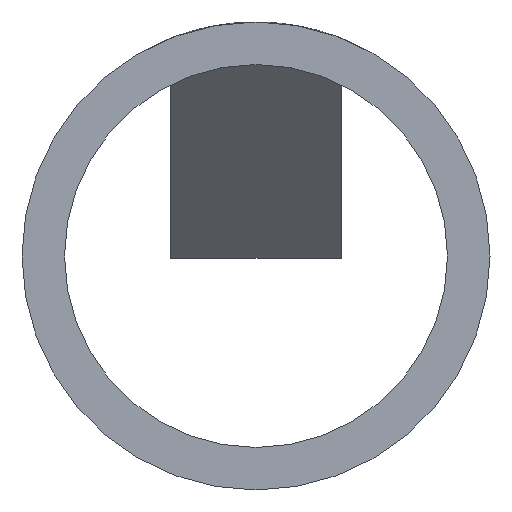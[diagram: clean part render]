
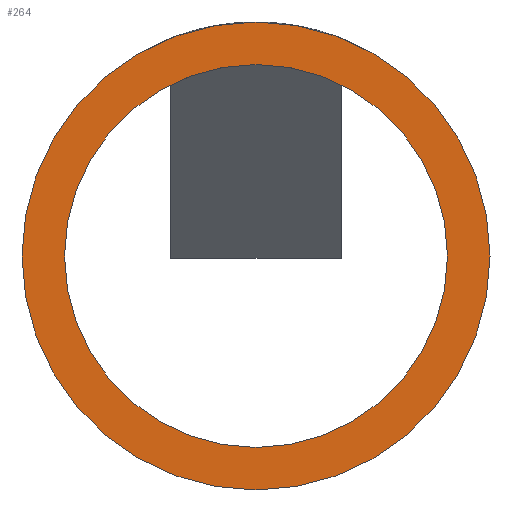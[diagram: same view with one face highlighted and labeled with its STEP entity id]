
A CAD part, front view. The second image highlights one B-rep face of the part: STEP entity #264.
In plain terms, the highlighted planar face has unit normal (0, -1, 0).
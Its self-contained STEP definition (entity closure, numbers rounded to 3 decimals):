
#12 = FACE_BOUND ( 'NONE', #39, .T. ) ;
#17 = CIRCLE ( 'NONE', #254, 5.5 ) ;
#31 = ORIENTED_EDGE ( 'NONE', *, *, #228, .T. ) ;
#39 = EDGE_LOOP ( 'NONE', ( #119, #42 ) ) ;
#42 = ORIENTED_EDGE ( 'NONE', *, *, #237, .F. ) ;
#94 = CIRCLE ( 'NONE', #242, 4.5 ) ;
#100 = ORIENTED_EDGE ( 'NONE', *, *, #195, .T. ) ;
#109 = EDGE_LOOP ( 'NONE', ( #31, #100 ) ) ;
#119 = ORIENTED_EDGE ( 'NONE', *, *, #239, .F. ) ;
#130 = CIRCLE ( 'NONE', #235, 5.5 ) ;
#143 = FACE_OUTER_BOUND ( 'NONE', #109, .T. ) ;
#154 = CIRCLE ( 'NONE', #218, 4.5 ) ;
#195 = EDGE_CURVE ( 'NONE', #367, #387, #130, .T. ) ;
#218 = AXIS2_PLACEMENT_3D ( 'NONE', #326, #332, #330 ) ;
#220 = AXIS2_PLACEMENT_3D ( 'NONE', #489, #334, #296 ) ;
#228 = EDGE_CURVE ( 'NONE', #387, #367, #17, .T. ) ;
#235 = AXIS2_PLACEMENT_3D ( 'NONE', #411, #381, #371 ) ;
#237 = EDGE_CURVE ( 'NONE', #365, #404, #154, .T. ) ;
#239 = EDGE_CURVE ( 'NONE', #404, #365, #94, .T. ) ;
#242 = AXIS2_PLACEMENT_3D ( 'NONE', #328, #318, #317 ) ;
#254 = AXIS2_PLACEMENT_3D ( 'NONE', #329, #324, #322 ) ;
#264 = ADVANCED_FACE ( 'NONE', ( #143, #12 ), #492, .T. ) ;
#296 = DIRECTION ( 'NONE',  ( -1., 0., 0. ) ) ;
#317 = DIRECTION ( 'NONE',  ( -1., 0., 0. ) ) ;
#318 = DIRECTION ( 'NONE',  ( 0., -1., 0. ) ) ;
#322 = DIRECTION ( 'NONE',  ( -1., 0., 0. ) ) ;
#324 = DIRECTION ( 'NONE',  ( 0., -1., 0. ) ) ;
#326 = CARTESIAN_POINT ( 'NONE',  ( 0., 0., 0. ) ) ;
#328 = CARTESIAN_POINT ( 'NONE',  ( 0., 0., 0. ) ) ;
#329 = CARTESIAN_POINT ( 'NONE',  ( 0., 0., 0. ) ) ;
#330 = DIRECTION ( 'NONE',  ( -1., 0., 0. ) ) ;
#332 = DIRECTION ( 'NONE',  ( 0., -1., 0. ) ) ;
#334 = DIRECTION ( 'NONE',  ( 0., -1., 0. ) ) ;
#365 = VERTEX_POINT ( 'NONE', #447 ) ;
#367 = VERTEX_POINT ( 'NONE', #464 ) ;
#371 = DIRECTION ( 'NONE',  ( -1., 0., 0. ) ) ;
#381 = DIRECTION ( 'NONE',  ( 0., -1., 0. ) ) ;
#387 = VERTEX_POINT ( 'NONE', #439 ) ;
#404 = VERTEX_POINT ( 'NONE', #446 ) ;
#411 = CARTESIAN_POINT ( 'NONE',  ( 0., 0., 0. ) ) ;
#439 = CARTESIAN_POINT ( 'NONE',  ( 5.5, 0., 0. ) ) ;
#446 = CARTESIAN_POINT ( 'NONE',  ( 4.5, 0., 0. ) ) ;
#447 = CARTESIAN_POINT ( 'NONE',  ( -4.5, 0., 0. ) ) ;
#464 = CARTESIAN_POINT ( 'NONE',  ( -5.5, 0., 0. ) ) ;
#489 = CARTESIAN_POINT ( 'NONE',  ( 0., 0., 0. ) ) ;
#492 = PLANE ( 'NONE',  #220 ) ;
